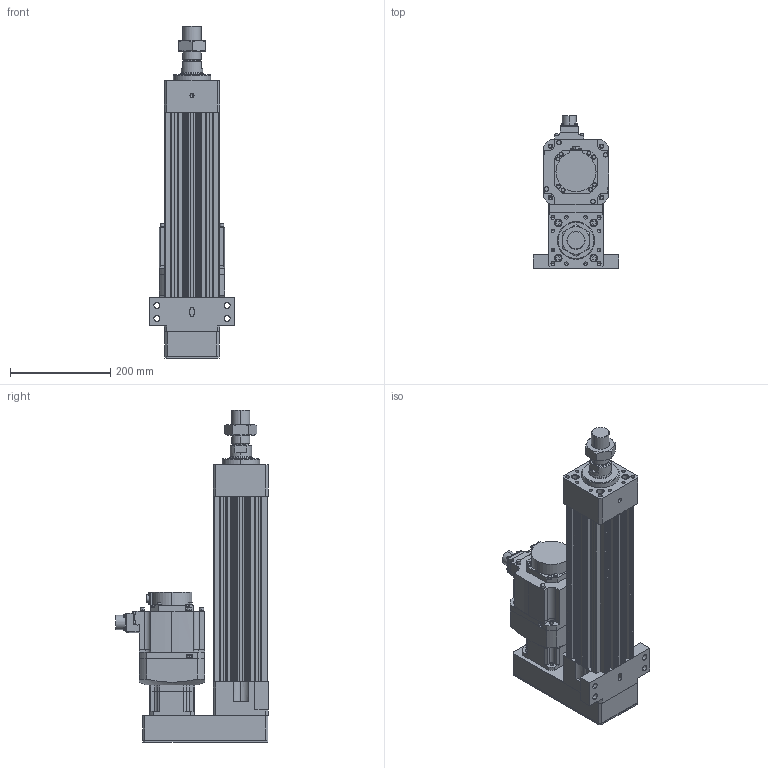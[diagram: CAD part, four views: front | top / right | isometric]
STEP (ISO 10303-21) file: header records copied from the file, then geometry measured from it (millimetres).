
FILE_DESCRIPTION (( 'STEP AP203' ), '1' );
FILE_NAME ('HES110NS(HS)-P200-W010G00-M-FFC.STEP', '2023-01-26T09:59:11', ( 'tms' ), ( '' ), 'SwSTEP 2.0', 'SolidWorks 2013', '' );
FILE_SCHEMA (( 'CONFIG_CONTROL_DESIGN' ));
Length unit declared in the file: millimetre
Products named in the file (8): HES110 ROD M ST200; HG-SR102; P0401301004; AB0901; AB090-003[HG-SR102B]; HES110-P200-G090-FFC; M36X1.5P; HES110NS(HS)-P200-W010G00-M-FFC
Assembly tree (7 placements, depth 3):
  HES110NS(HS)-P200-W010G00-M-FFC
    HES110-P200-G090-FFC
    HES110 ROD M ST200
    M36X1.5P
    AB090-003[HG-SR102B]
      AB0901
      P0401301004
    HG-SR102
Bounding box: 170 x 304.99 x 663 mm (x, y, z)
Volume: 6793976.1 mm3; surface area: 825980.8 mm2
Topology: 4 solids, 11 shells, 1111 faces, 2835 edges, 1826 vertices
Faces by surface type: cylinder 519, plane 486, cone 94, bspline 8, torus 4
Entity records: 35472 total; most frequent: CARTESIAN_POINT 6938, DIRECTION 6110, ORIENTED_EDGE 5574, EDGE_CURVE 2797, AXIS2_PLACEMENT_3D 2269, VERTEX_POINT 1826, LINE 1572, VECTOR 1572
